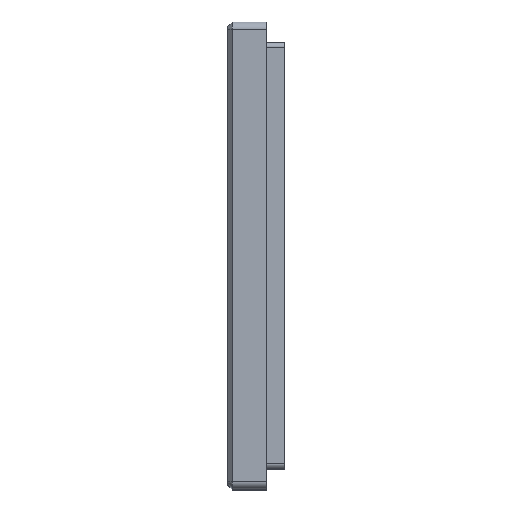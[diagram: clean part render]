
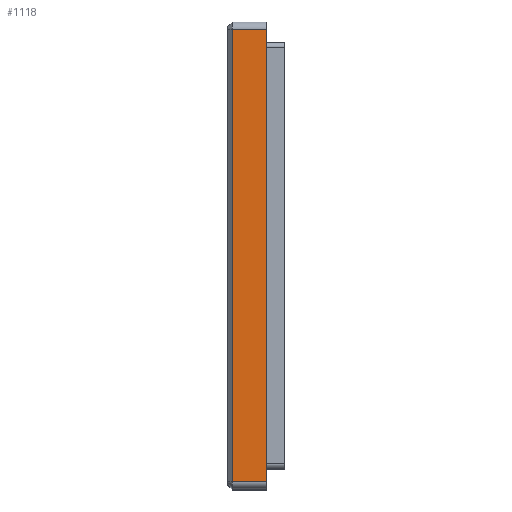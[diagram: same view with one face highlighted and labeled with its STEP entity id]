
A CAD part, top view. The second image highlights one B-rep face of the part: STEP entity #1118.
In plain terms, the highlighted planar face has unit normal (0, 0, 1).
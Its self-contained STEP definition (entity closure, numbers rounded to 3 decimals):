
#227 = PLANE('',#228);
#228 = AXIS2_PLACEMENT_3D('',#229,#230,#231);
#229 = CARTESIAN_POINT('',(-58.45,-36.9,90.5));
#230 = DIRECTION('',(0.707,0.,-0.707));
#231 = DIRECTION('',(0.,1.,0.));
#436 = VERTEX_POINT('',#437);
#437 = CARTESIAN_POINT('',(-58.05,-36.9,90.9));
#471 = CYLINDRICAL_SURFACE('',#472,1.2);
#472 = AXIS2_PLACEMENT_3D('',#473,#474,#475);
#473 = CARTESIAN_POINT('',(-58.85,-36.9,89.7));
#474 = DIRECTION('',(1.,0.,0.));
#475 = DIRECTION('',(0.,-1.,0.));
#541 = VERTEX_POINT('',#542);
#542 = CARTESIAN_POINT('',(-58.05,36.9,90.9));
#561 = EDGE_CURVE('',#436,#541,#562,.T.);
#562 = SURFACE_CURVE('',#563,(#567,#574),.PCURVE_S1.);
#563 = LINE('',#564,#565);
#564 = CARTESIAN_POINT('',(-58.05,-36.9,90.9));
#565 = VECTOR('',#566,1.);
#566 = DIRECTION('',(0.,1.,0.));
#567 = PCURVE('',#227,#568);
#568 = DEFINITIONAL_REPRESENTATION('',(#569),#573);
#569 = LINE('',#570,#571);
#570 = CARTESIAN_POINT('',(0.,0.566));
#571 = VECTOR('',#572,1.);
#572 = DIRECTION('',(1.,0.));
#573 = ( GEOMETRIC_REPRESENTATION_CONTEXT(2) 
PARAMETRIC_REPRESENTATION_CONTEXT() REPRESENTATION_CONTEXT('2D SPACE',''
  ) );
#574 = PCURVE('',#575,#580);
#575 = PLANE('',#576);
#576 = AXIS2_PLACEMENT_3D('',#577,#578,#579);
#577 = CARTESIAN_POINT('',(-58.85,-38.1,90.9));
#578 = DIRECTION('',(0.,0.,1.));
#579 = DIRECTION('',(1.,0.,0.));
#580 = DEFINITIONAL_REPRESENTATION('',(#581),#585);
#581 = LINE('',#582,#583);
#582 = CARTESIAN_POINT('',(0.8,1.2));
#583 = VECTOR('',#584,1.);
#584 = DIRECTION('',(0.,1.));
#585 = ( GEOMETRIC_REPRESENTATION_CONTEXT(2) 
PARAMETRIC_REPRESENTATION_CONTEXT() REPRESENTATION_CONTEXT('2D SPACE',''
  ) );
#681 = CYLINDRICAL_SURFACE('',#682,1.2);
#682 = AXIS2_PLACEMENT_3D('',#683,#684,#685);
#683 = CARTESIAN_POINT('',(-58.85,36.9,89.7));
#684 = DIRECTION('',(1.,0.,0.));
#685 = DIRECTION('',(-0.,1.,0.));
#850 = PLANE('',#851);
#851 = AXIS2_PLACEMENT_3D('',#852,#853,#854);
#852 = CARTESIAN_POINT('',(-52.5,-38.1,0.));
#853 = DIRECTION('',(1.,0.,0.));
#854 = DIRECTION('',(0.,0.,1.));
#1021 = EDGE_CURVE('',#436,#1022,#1024,.T.);
#1022 = VERTEX_POINT('',#1023);
#1023 = CARTESIAN_POINT('',(-52.5,-36.9,90.9));
#1024 = SURFACE_CURVE('',#1025,(#1029,#1036),.PCURVE_S1.);
#1025 = LINE('',#1026,#1027);
#1026 = CARTESIAN_POINT('',(-58.85,-36.9,90.9));
#1027 = VECTOR('',#1028,1.);
#1028 = DIRECTION('',(1.,0.,0.));
#1029 = PCURVE('',#471,#1030);
#1030 = DEFINITIONAL_REPRESENTATION('',(#1031),#1035);
#1031 = LINE('',#1032,#1033);
#1032 = CARTESIAN_POINT('',(-1.571,0.));
#1033 = VECTOR('',#1034,1.);
#1034 = DIRECTION('',(-0.,1.));
#1035 = ( GEOMETRIC_REPRESENTATION_CONTEXT(2) 
PARAMETRIC_REPRESENTATION_CONTEXT() REPRESENTATION_CONTEXT('2D SPACE',''
  ) );
#1036 = PCURVE('',#575,#1037);
#1037 = DEFINITIONAL_REPRESENTATION('',(#1038),#1042);
#1038 = LINE('',#1039,#1040);
#1039 = CARTESIAN_POINT('',(0.,1.2));
#1040 = VECTOR('',#1041,1.);
#1041 = DIRECTION('',(1.,0.));
#1042 = ( GEOMETRIC_REPRESENTATION_CONTEXT(2) 
PARAMETRIC_REPRESENTATION_CONTEXT() REPRESENTATION_CONTEXT('2D SPACE',''
  ) );
#1118 = ADVANCED_FACE('',(#1119),#575,.T.);
#1119 = FACE_BOUND('',#1120,.T.);
#1120 = EDGE_LOOP('',(#1121,#1122,#1145,#1166));
#1121 = ORIENTED_EDGE('',*,*,#1021,.T.);
#1122 = ORIENTED_EDGE('',*,*,#1123,.T.);
#1123 = EDGE_CURVE('',#1022,#1124,#1126,.T.);
#1124 = VERTEX_POINT('',#1125);
#1125 = CARTESIAN_POINT('',(-52.5,36.9,90.9));
#1126 = SURFACE_CURVE('',#1127,(#1131,#1138),.PCURVE_S1.);
#1127 = LINE('',#1128,#1129);
#1128 = CARTESIAN_POINT('',(-52.5,-38.1,90.9));
#1129 = VECTOR('',#1130,1.);
#1130 = DIRECTION('',(0.,1.,0.));
#1131 = PCURVE('',#575,#1132);
#1132 = DEFINITIONAL_REPRESENTATION('',(#1133),#1137);
#1133 = LINE('',#1134,#1135);
#1134 = CARTESIAN_POINT('',(6.35,0.));
#1135 = VECTOR('',#1136,1.);
#1136 = DIRECTION('',(0.,1.));
#1137 = ( GEOMETRIC_REPRESENTATION_CONTEXT(2) 
PARAMETRIC_REPRESENTATION_CONTEXT() REPRESENTATION_CONTEXT('2D SPACE',''
  ) );
#1138 = PCURVE('',#850,#1139);
#1139 = DEFINITIONAL_REPRESENTATION('',(#1140),#1144);
#1140 = LINE('',#1141,#1142);
#1141 = CARTESIAN_POINT('',(90.9,0.));
#1142 = VECTOR('',#1143,1.);
#1143 = DIRECTION('',(0.,-1.));
#1144 = ( GEOMETRIC_REPRESENTATION_CONTEXT(2) 
PARAMETRIC_REPRESENTATION_CONTEXT() REPRESENTATION_CONTEXT('2D SPACE',''
  ) );
#1145 = ORIENTED_EDGE('',*,*,#1146,.F.);
#1146 = EDGE_CURVE('',#541,#1124,#1147,.T.);
#1147 = SURFACE_CURVE('',#1148,(#1152,#1159),.PCURVE_S1.);
#1148 = LINE('',#1149,#1150);
#1149 = CARTESIAN_POINT('',(-58.85,36.9,90.9));
#1150 = VECTOR('',#1151,1.);
#1151 = DIRECTION('',(1.,0.,0.));
#1152 = PCURVE('',#575,#1153);
#1153 = DEFINITIONAL_REPRESENTATION('',(#1154),#1158);
#1154 = LINE('',#1155,#1156);
#1155 = CARTESIAN_POINT('',(0.,75.));
#1156 = VECTOR('',#1157,1.);
#1157 = DIRECTION('',(1.,0.));
#1158 = ( GEOMETRIC_REPRESENTATION_CONTEXT(2) 
PARAMETRIC_REPRESENTATION_CONTEXT() REPRESENTATION_CONTEXT('2D SPACE',''
  ) );
#1159 = PCURVE('',#681,#1160);
#1160 = DEFINITIONAL_REPRESENTATION('',(#1161),#1165);
#1161 = LINE('',#1162,#1163);
#1162 = CARTESIAN_POINT('',(1.571,0.));
#1163 = VECTOR('',#1164,1.);
#1164 = DIRECTION('',(0.,1.));
#1165 = ( GEOMETRIC_REPRESENTATION_CONTEXT(2) 
PARAMETRIC_REPRESENTATION_CONTEXT() REPRESENTATION_CONTEXT('2D SPACE',''
  ) );
#1166 = ORIENTED_EDGE('',*,*,#561,.F.);
